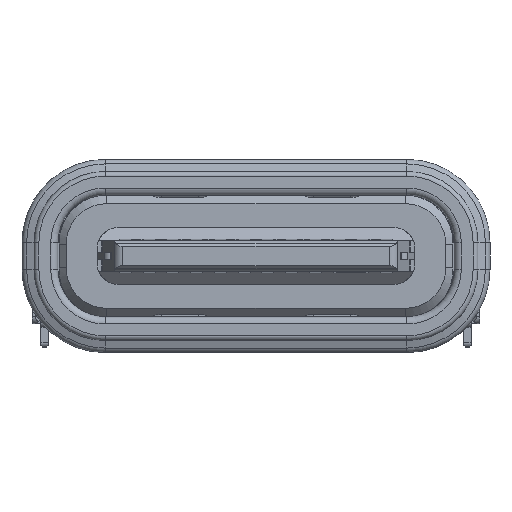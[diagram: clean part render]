
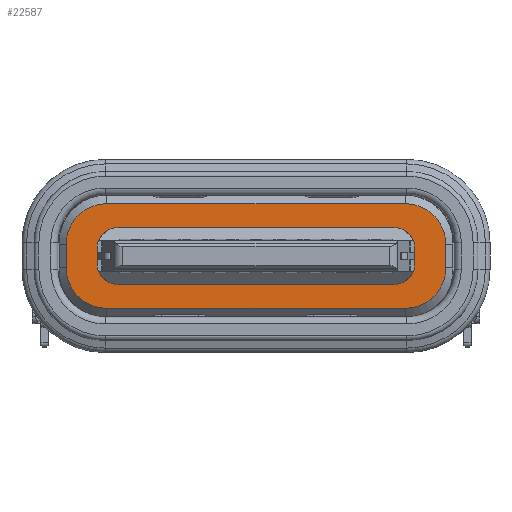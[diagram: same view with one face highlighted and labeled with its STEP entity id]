
A CAD part, front view. The second image highlights one B-rep face of the part: STEP entity #22587.
In plain terms, the highlighted planar face has unit normal (0, -1, 0).
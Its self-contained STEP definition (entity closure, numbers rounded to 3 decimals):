
#882=DIRECTION('',(1.,0.,0.));
#883=VECTOR('',#882,6.29);
#884=CARTESIAN_POINT('',(68.955,4.695,2.67));
#885=LINE('',#884,#883);
#906=CARTESIAN_POINT('',(68.955,4.695,1.82));
#907=DIRECTION('',(0.,-1.,0.));
#908=DIRECTION('',(0.,0.,1.));
#909=AXIS2_PLACEMENT_3D('',#906,#907,#908);
#911=CARTESIAN_POINT('',(75.245,4.695,1.82));
#912=DIRECTION('',(0.,-1.,0.));
#913=DIRECTION('',(1.,0.,0.));
#914=AXIS2_PLACEMENT_3D('',#911,#912,#913);
#916=CARTESIAN_POINT('',(75.245,4.695,1.32));
#917=DIRECTION('',(0.,-1.,0.));
#918=DIRECTION('',(0.,0.,-1.));
#919=AXIS2_PLACEMENT_3D('',#916,#917,#918);
#921=CARTESIAN_POINT('',(68.955,4.695,1.32));
#922=DIRECTION('',(0.,-1.,0.));
#923=DIRECTION('',(-1.,0.,0.));
#924=AXIS2_PLACEMENT_3D('',#921,#922,#923);
#926=DIRECTION('',(0.,0.,1.));
#927=VECTOR('',#926,0.3);
#928=CARTESIAN_POINT('',(68.755,4.695,1.42));
#929=LINE('',#928,#927);
#930=CARTESIAN_POINT('',(69.205,4.695,1.42));
#931=DIRECTION('',(0.,1.,0.));
#932=DIRECTION('',(0.,0.,-1.));
#933=AXIS2_PLACEMENT_3D('',#930,#931,#932);
#935=DIRECTION('',(-1.,0.,0.));
#936=VECTOR('',#935,5.79);
#937=CARTESIAN_POINT('',(74.995,4.695,0.97));
#938=LINE('',#937,#936);
#939=CARTESIAN_POINT('',(74.995,4.695,1.42));
#940=DIRECTION('',(0.,1.,0.));
#941=DIRECTION('',(1.,0.,0.));
#942=AXIS2_PLACEMENT_3D('',#939,#940,#941);
#944=DIRECTION('',(0.,0.,-1.));
#945=VECTOR('',#944,0.3);
#946=CARTESIAN_POINT('',(75.445,4.695,1.72));
#947=LINE('',#946,#945);
#948=CARTESIAN_POINT('',(74.995,4.695,1.72));
#949=DIRECTION('',(0.,1.,0.));
#950=DIRECTION('',(0.,0.,1.));
#951=AXIS2_PLACEMENT_3D('',#948,#949,#950);
#953=DIRECTION('',(1.,0.,0.));
#954=VECTOR('',#953,5.79);
#955=CARTESIAN_POINT('',(69.205,4.695,2.17));
#956=LINE('',#955,#954);
#957=CARTESIAN_POINT('',(69.205,4.695,1.72));
#958=DIRECTION('',(0.,1.,0.));
#959=DIRECTION('',(-1.,0.,0.));
#960=AXIS2_PLACEMENT_3D('',#957,#958,#959);
#962=DIRECTION('',(0.,0.,1.));
#963=VECTOR('',#962,0.5);
#964=CARTESIAN_POINT('',(68.105,4.695,1.32));
#965=LINE('',#964,#963);
#981=DIRECTION('',(-1.,0.,0.));
#982=VECTOR('',#981,6.29);
#983=CARTESIAN_POINT('',(75.245,4.695,0.47));
#984=LINE('',#983,#982);
#1084=DIRECTION('',(0.,0.,-1.));
#1085=VECTOR('',#1084,0.5);
#1086=CARTESIAN_POINT('',(76.095,4.695,1.82));
#1087=LINE('',#1086,#1085);
#16739=CARTESIAN_POINT('',(69.205,4.695,
0.97));
#16740=VERTEX_POINT('',#16739);
#16741=CARTESIAN_POINT('',(68.755,4.695,1.42));
#16742=VERTEX_POINT('',#16741);
#16747=CARTESIAN_POINT('',(74.995,4.695,
0.97));
#16748=VERTEX_POINT('',#16747);
#16749=CARTESIAN_POINT('',(75.445,4.695,1.42));
#16751=VERTEX_POINT('',#16749);
#19146=CARTESIAN_POINT('',(76.095,4.695,1.32));
#19147=VERTEX_POINT('',#19146);
#19148=CARTESIAN_POINT('',(75.245,4.695,0.47));
#19150=VERTEX_POINT('',#19148);
#19152=CARTESIAN_POINT('',(76.095,4.695,1.82));
#19153=VERTEX_POINT('',#19152);
#19161=CARTESIAN_POINT('',(68.955,4.695,0.47));
#19163=VERTEX_POINT('',#19161);
#19164=CARTESIAN_POINT('',(68.105,4.695,1.82));
#19165=VERTEX_POINT('',#19164);
#19166=CARTESIAN_POINT('',(68.955,4.695,2.67));
#19168=VERTEX_POINT('',#19166);
#19170=CARTESIAN_POINT('',(68.105,4.695,1.32));
#19171=VERTEX_POINT('',#19170);
#19173=CARTESIAN_POINT('',(75.245,4.695,2.67));
#19175=VERTEX_POINT('',#19173);
#19911=CARTESIAN_POINT('',(68.755,4.695,1.72));
#19912=CARTESIAN_POINT('',(69.205,4.695,2.17));
#19913=VERTEX_POINT('',#19911);
#19914=VERTEX_POINT('',#19912);
#20158=CARTESIAN_POINT('',(74.995,4.695,2.17));
#20159=CARTESIAN_POINT('',(75.445,4.695,1.72));
#20160=VERTEX_POINT('',#20158);
#20161=VERTEX_POINT('',#20159);
#22548=CARTESIAN_POINT('',(76.297,4.695,
0.413));
#22549=DIRECTION('',(0.,-1.,0.));
#22550=DIRECTION('',(0.,0.,1.));
#22551=AXIS2_PLACEMENT_3D('',#22548,#22549,#22550);
#22552=PLANE('',#22551);
#22554=ORIENTED_EDGE('',*,*,#22553,.T.);
#22556=ORIENTED_EDGE('',*,*,#22555,.F.);
#22557=ORIENTED_EDGE('',*,*,#22509,.T.);
#22558=ORIENTED_EDGE('',*,*,#22528,.F.);
#22560=ORIENTED_EDGE('',*,*,#22559,.T.);
#22562=ORIENTED_EDGE('',*,*,#22561,.F.);
#22564=ORIENTED_EDGE('',*,*,#22563,.T.);
#22566=ORIENTED_EDGE('',*,*,#22565,.F.);
#22567=EDGE_LOOP('',(#22554,#22556,#22557,#22558,#22560,#22562,#22564,#22566));
#22568=FACE_OUTER_BOUND('',#22567,.F.);
#22570=ORIENTED_EDGE('',*,*,#22569,.F.);
#22572=ORIENTED_EDGE('',*,*,#22571,.F.);
#22574=ORIENTED_EDGE('',*,*,#22573,.F.);
#22576=ORIENTED_EDGE('',*,*,#22575,.F.);
#22578=ORIENTED_EDGE('',*,*,#22577,.F.);
#22580=ORIENTED_EDGE('',*,*,#22579,.F.);
#22582=ORIENTED_EDGE('',*,*,#22581,.F.);
#22584=ORIENTED_EDGE('',*,*,#22583,.F.);
#22585=EDGE_LOOP('',(#22570,#22572,#22574,#22576,#22578,#22580,#22582,#22584));
#22586=FACE_BOUND('',#22585,.F.);
#910=CIRCLE('',#909,0.85);
#915=CIRCLE('',#914,0.85);
#920=CIRCLE('',#919,0.85);
#925=CIRCLE('',#924,0.85);
#934=CIRCLE('',#933,0.45);
#943=CIRCLE('',#942,0.45);
#952=CIRCLE('',#951,0.45);
#961=CIRCLE('',#960,0.45);
#22509=EDGE_CURVE('',#19168,#19175,#885,.T.);
#22528=EDGE_CURVE('',#19153,#19175,#915,.T.);
#22553=EDGE_CURVE('',#19171,#19165,#965,.T.);
#22555=EDGE_CURVE('',#19168,#19165,#910,.T.);
#22559=EDGE_CURVE('',#19153,#19147,#1087,.T.);
#22561=EDGE_CURVE('',#19150,#19147,#920,.T.);
#22563=EDGE_CURVE('',#19150,#19163,#984,.T.);
#22565=EDGE_CURVE('',#19171,#19163,#925,.T.);
#22569=EDGE_CURVE('',#16742,#19913,#929,.T.);
#22571=EDGE_CURVE('',#16740,#16742,#934,.T.);
#22573=EDGE_CURVE('',#16748,#16740,#938,.T.);
#22575=EDGE_CURVE('',#16751,#16748,#943,.T.);
#22577=EDGE_CURVE('',#20161,#16751,#947,.T.);
#22579=EDGE_CURVE('',#20160,#20161,#952,.T.);
#22581=EDGE_CURVE('',#19914,#20160,#956,.T.);
#22583=EDGE_CURVE('',#19913,#19914,#961,.T.);
#22587=ADVANCED_FACE('',(#22568,#22586),#22552,.T.);
